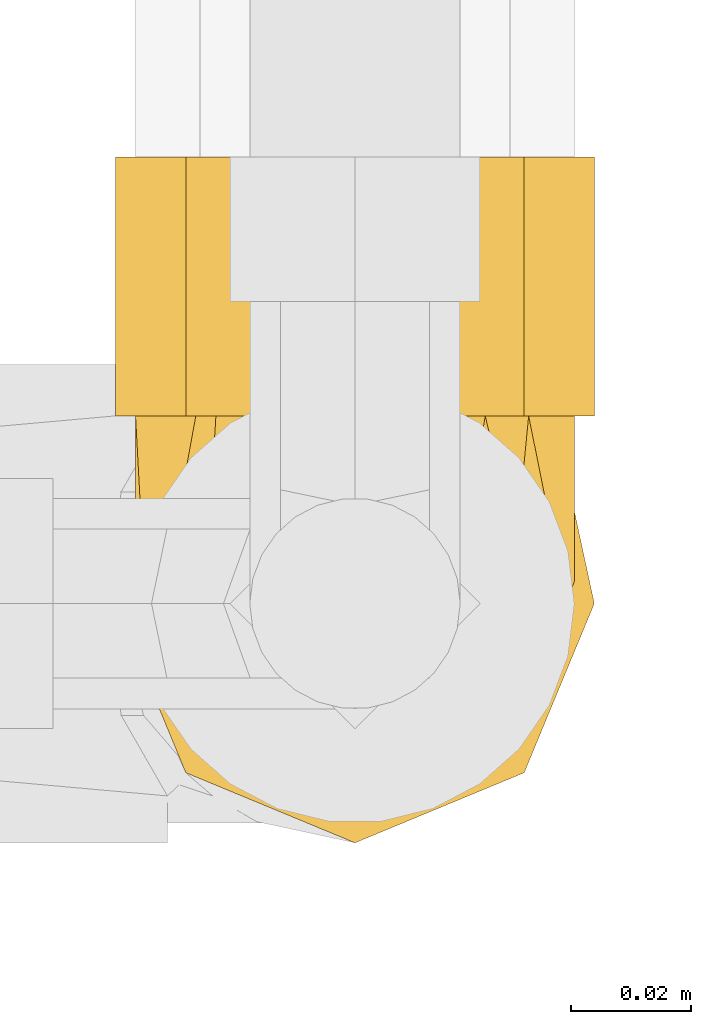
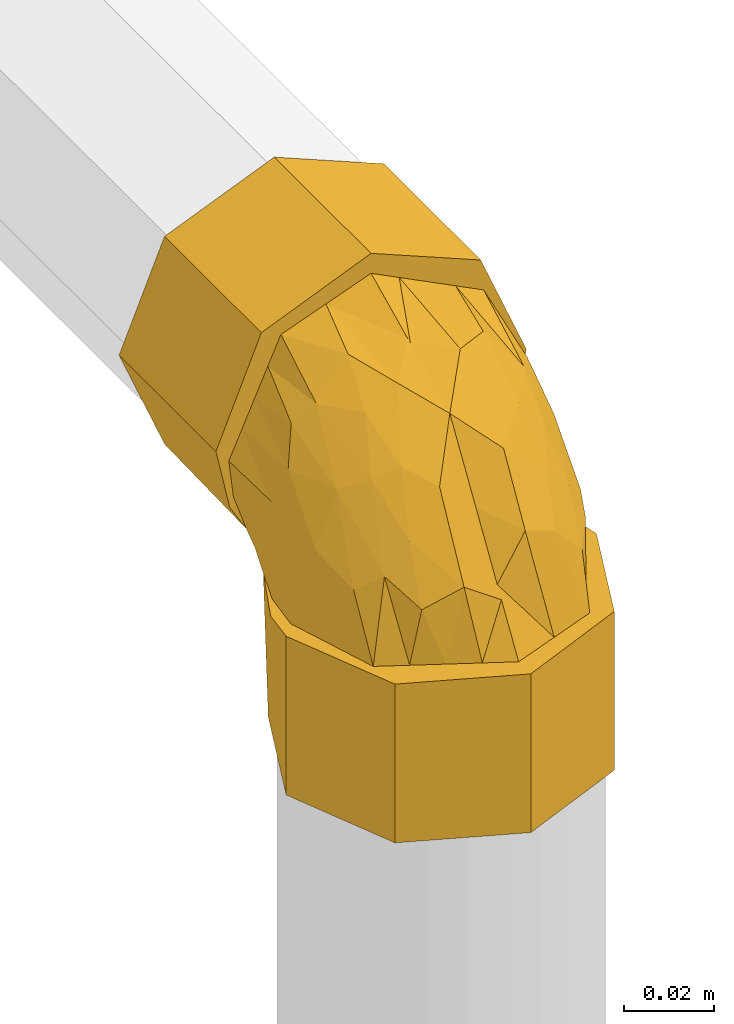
# One storey, part 271 of 652: 1 covering.
"""IFC2X3 building model written with IfcOpenShell, lengths in millimetres."""

from ifc_helpers import new_model, entity, si_unit, converted_unit, direction, frame, origin, place, context, subcontext, project, spatial, faceted_brep, material, type_object, element, save


model = new_model("IFC2X3")

# Units and contexts
model_context = context("Model", 3, precision=0.01, world=frame((0.0, 0.0, 308426.39999999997)), true_north=direction((6.123233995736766e-17, 1.0)))
plan_context = context("Plan", 3, precision=0.01, world=frame((0.0, 0.0, 308426.39999999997)), true_north=direction((6.123233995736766e-17, 1.0)))
body_context = subcontext(model_context, "Body", "Model", "MODEL_VIEW")
ifc_project = project(units=[si_unit("LENGTHUNIT", "METRE", prefix="MILLI"), si_unit("AREAUNIT", "SQUARE_METRE"), si_unit("VOLUMEUNIT", "CUBIC_METRE"), converted_unit("PLANEANGLEUNIT", "DEGREE", entity("IfcPlaneAngleMeasure", 0.017453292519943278), si_unit("PLANEANGLEUNIT", "RADIAN"), dimensions=[0, 0, 0, 0, 0, 0, 0])], contexts=[model_context, plan_context])

# Site, building, storey
site_placement = place(None, origin())
site = spatial("IfcSite", under=ifc_project, at=site_placement, Name="Default", CompositionType="ELEMENT")
building_placement = place(site_placement, origin())
building = spatial("IfcBuilding", under=site, at=building_placement, CompositionType="ELEMENT")
storey_placement = place(building_placement, frame((0.0, 0.0, 1730.6999999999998)))
storey = spatial("IfcBuildingStorey", under=building, at=storey_placement, Name="EG_Produktion_FFB", CompositionType="ELEMENT", Elevation=1730.6999999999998)

# Covering
ifc_material = material(Name="Dämmung - Armaflex-Schlauch")
covering_type = type_object("IfcCoveringType", Name="Rohrdämmung außen:Armaflex-Schlauch", PredefinedType="INSULATION")
covering_placement = place(storey_placement, frame((79380.69747546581, 78737.33483172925, 4925.750000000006)))
element("IfcCovering", 1, at=covering_placement, inside=storey, type_object=covering_type, material=ifc_material, Name="Rohrdämmung außen:Armaflex-Schlauch", ObjectType="Rohrdämmung außen:Armaflex-Schlauch", PredefinedType="INSULATION", context=body_context, shape_type="Brep", body=[
    faceted_brep([(76.69198954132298, 55.37038782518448, 43.05000000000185), (77.16404151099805, 51.35297020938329, 43.05000000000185), (77.89527223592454, 45.12980118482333, 43.05000000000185), (74.4532351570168, 37.49419488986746, 43.05000000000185), (71.01119807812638, 29.858588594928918, 43.05000000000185), (67.77734838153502, 22.684812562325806, 43.05000000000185), (64.5434986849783, 15.511036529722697, 43.05000000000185), (52.969385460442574, 11.256907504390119, 43.05000000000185), (41.395272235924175, 7.0027784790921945, 43.05000000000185), (34.17684368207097, 10.652022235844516, 43.05000000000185), (26.95841512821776, 14.301265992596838, 43.05000000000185), (19.739986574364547, 17.95050974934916, 43.05000000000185), (12.521558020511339, 21.599753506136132, 43.05000000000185), (10.13128984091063, 28.974657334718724, 43.05000000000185), (7.513281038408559, 37.052229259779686, 43.05000000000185), (4.895272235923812, 45.12980118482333, 43.05000000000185), (5.6265029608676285, 51.35297020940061, 43.05000000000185), (6.09855493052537, 55.37038782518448, 43.05000000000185), (7.751839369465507, 60.22206990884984, 43.05000000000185), (9.405123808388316, 65.0737519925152, 43.05000000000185), (5.948218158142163, 57.433378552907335, 43.05000000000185), (2.4913125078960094, 49.7930051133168, 43.05000000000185), (1.5952722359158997, 41.39527223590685, 43.05000000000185), (4.909068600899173, 33.39506010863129, 43.05000000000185), (7.4238472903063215, 27.323847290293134, 43.05000000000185), (10.338134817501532, 20.288134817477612, 43.05000000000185), (13.252422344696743, 13.252422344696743, 43.05000000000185), (20.28813481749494, 10.338134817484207, 43.05000000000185), (27.32384729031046, 7.423847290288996, 43.05000000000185), (34.35955976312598, 4.509559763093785, 43.05000000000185), (41.395272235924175, 1.5952722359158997, 43.05000000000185), (49.39548442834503, 4.9090686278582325, 43.05000000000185), (55.466697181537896, 7.423847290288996, 43.05000000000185), (62.50240965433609, 10.338134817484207, 43.05000000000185), (69.53812212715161, 13.252422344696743, 43.05000000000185), (72.45240965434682, 20.288134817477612, 43.05000000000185), (75.36669718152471, 27.323847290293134, 43.05000000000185), (77.88147639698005, 33.395061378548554, 43.05000000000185), (81.19527223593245, 41.39527223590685, 43.05000000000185), (79.425746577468, 49.5986800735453, 43.05000000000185), (77.65622091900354, 57.802087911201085, 43.05000000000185), (73.38542066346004, 65.0737519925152, 43.05000000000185), (75.03870510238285, 60.22206990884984, 43.05000000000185), (4.509559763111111, 48.43098470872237, 0.0), (7.4238472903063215, 55.466697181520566, 0.0), (10.338134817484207, 62.50240965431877, 0.0), (13.252422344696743, 69.53812212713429, 0.0), (20.28813481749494, 72.4524096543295, 0.0), (27.32384729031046, 75.36669718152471, 0.0), (33.395059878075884, 77.88147577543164, 0.0), (41.395272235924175, 81.19527223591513, 0.0), (49.39548296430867, 77.88147645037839, 0.0), (55.466697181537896, 75.36669718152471, 0.0), (62.502409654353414, 72.4524096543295, 0.0), (69.53812212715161, 69.53812212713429, 0.0), (72.45240965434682, 62.50240965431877, 0.0), (75.36669718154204, 55.466697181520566, 0.0), (78.28098470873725, 48.43098470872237, 0.0), (81.19527223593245, 41.39527223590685, 0.0), (78.28098470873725, 34.35955976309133, 0.0), (75.36669718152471, 27.323847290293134, 0.0), (72.45240965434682, 20.288134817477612, 0.0), (69.53812212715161, 13.252422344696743, 0.0), (62.502409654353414, 10.338134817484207, 0.0), (55.466697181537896, 7.42384729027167, 0.0), (48.43098470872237, 4.509559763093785, 0.0), (41.395272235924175, 1.5952722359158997, 0.0), (34.359559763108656, 4.509559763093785, 0.0), (27.32384729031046, 7.423847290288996, 0.0), (20.28813481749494, 10.338134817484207, 0.0), (13.252422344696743, 13.252422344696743, 0.0), (8.222865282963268, 25.394847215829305, 0.0), (4.90906875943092, 33.39505972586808, 0.0), (1.5952722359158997, 41.39527223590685, 0.0), (16.10717069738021, 70.83137669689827, 39.20119599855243), (41.395272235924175, 81.19527223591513, 32.96795940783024), (32.10224491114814, 78.89213681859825, 34.160175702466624), (22.809217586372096, 76.58900140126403, 35.352391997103), (27.455731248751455, 77.7405691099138, 34.756283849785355), (66.68337377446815, 70.83137669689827, 39.20119599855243), (50.688299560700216, 78.89213681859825, 34.160175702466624), (59.98132688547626, 76.58900140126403, 35.352391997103), (45.709172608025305, 80.12613767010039, 33.52139610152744), (81.19527223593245, 72.59527223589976, 74.2500000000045), (77.88147589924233, 72.59527223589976, 82.25021205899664), (75.36669718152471, 72.59527223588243, 88.32142494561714), (72.45240965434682, 72.59527223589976, 95.35713741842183), (69.53812212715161, 72.59527223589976, 102.39284989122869), (62.50240965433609, 72.59527223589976, 105.30713741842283), (55.466697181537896, 72.59527223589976, 108.22142494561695), (49.39548303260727, 72.59527223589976, 110.7362041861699), (41.395272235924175, 72.59527223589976, 114.05000000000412), (33.39506041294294, 72.59527223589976, 110.73620376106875), (27.32384729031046, 72.59527223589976, 108.22142494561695), (20.28813481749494, 72.59527223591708, 105.30713741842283), (13.252422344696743, 72.59527223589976, 102.39284989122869), (10.338134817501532, 72.59527223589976, 95.35713741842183), (7.4238472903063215, 72.59527223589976, 88.32142494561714), (4.509559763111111, 72.59527223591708, 81.28571247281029), (1.5952722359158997, 72.59527223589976, 74.2500000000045), (3.3647978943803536, 72.59527223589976, 66.04659216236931), (5.134323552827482, 72.59527223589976, 57.843184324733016), (9.405123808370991, 72.59527223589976, 50.57152024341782), (7.751839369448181, 72.59527223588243, 55.423202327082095), (6.09855493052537, 72.59527223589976, 60.274884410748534), (5.626503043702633, 72.59527223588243, 64.29230132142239), (5.260887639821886, 72.59527223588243, 67.40388618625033), (4.895272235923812, 72.59527223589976, 70.51547105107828), (8.235711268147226, 72.59527223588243, 77.9222713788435), (11.576150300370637, 72.59527223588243, 85.3290717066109), (14.91658933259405, 72.59527223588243, 92.73587203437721), (18.25702836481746, 72.59527223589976, 100.14267236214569), (24.04158933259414, 72.59527223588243, 102.26762771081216), (29.82615030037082, 72.59527223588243, 104.39258305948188), (41.395272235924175, 72.59527223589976, 108.64249375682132), (48.61586780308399, 72.59527223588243, 104.99034516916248), (55.83646337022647, 72.59527223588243, 101.33819658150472), (63.05705893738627, 72.59527223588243, 97.68604799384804), (70.27765450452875, 72.59527223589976, 94.03389940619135), (72.18205893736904, 72.59527223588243, 88.154292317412), (74.08646337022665, 72.59527223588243, 82.27468522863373), (77.89527223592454, 72.59527223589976, 70.51547105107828), (77.5296568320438, 72.59527223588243, 67.40388618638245), (77.16404142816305, 72.59527223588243, 64.29230132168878), (76.69198954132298, 72.59527223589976, 60.274884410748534), (75.03870510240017, 72.59527223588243, 55.423202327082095), (73.38542066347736, 72.59527223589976, 50.57152024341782), (76.84232631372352, 72.59527223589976, 58.21189368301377), (80.29923196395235, 72.59527223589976, 65.85226712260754), (13.252422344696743, 115.64527223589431, 102.39284989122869), (25.394847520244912, 115.64527223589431, 107.42240707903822), (33.39505987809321, 115.64527223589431, 110.73620353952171), (41.395272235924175, 115.64527223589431, 114.05000000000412), (48.4309847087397, 115.64527223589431, 111.13571247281), (55.466697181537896, 115.64527223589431, 108.22142494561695), (62.502409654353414, 115.64527223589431, 105.30713741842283), (69.53812212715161, 115.64527223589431, 102.39284989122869), (72.45240965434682, 115.64527223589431, 95.35713741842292), (75.36669718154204, 115.64527223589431, 88.32142494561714), (78.28098470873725, 115.64527223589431, 81.28571247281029), (81.19527223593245, 115.64527223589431, 74.25000000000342), (78.28098470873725, 115.64527223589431, 67.21428752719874), (75.36669718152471, 115.64527223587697, 60.17857505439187), (72.45240965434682, 115.64527223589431, 53.142862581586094), (69.53812212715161, 115.64527223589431, 46.10715010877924), (62.50240965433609, 115.64527223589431, 43.19286258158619), (55.466697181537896, 115.64527223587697, 40.278575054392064), (49.395484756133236, 115.64527223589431, 37.76379652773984), (41.395272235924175, 115.64527223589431, 34.45000000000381), (33.39506148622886, 115.64527223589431, 37.76379579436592), (27.32384729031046, 115.64527223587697, 40.278575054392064), (20.28813481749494, 115.64527223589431, 43.19286258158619), (13.252422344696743, 115.64527223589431, 46.10715010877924), (10.338134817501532, 115.64527223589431, 53.142862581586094), (7.4238472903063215, 115.64527223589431, 60.17857505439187), (4.90906875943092, 115.64527223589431, 66.24978748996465), (1.5952722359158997, 115.64527223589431, 74.2500000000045), (4.509559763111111, 115.64527223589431, 81.28571247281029), (7.4238472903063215, 115.64527223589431, 88.32142494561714), (10.338134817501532, 115.64527223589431, 95.35713741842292), (41.395272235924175, 82.67731282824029, 34.45000000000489), (32.10224491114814, 81.48509653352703, 36.75313541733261), (22.809217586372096, 80.29288023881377, 39.05627083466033), (32.76747165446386, 81.57043946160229, 36.58826909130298), (16.10717069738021, 76.4440762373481, 44.81389553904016), (66.68337377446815, 76.4440762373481, 44.81389553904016), (50.688299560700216, 81.48509653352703, 36.75313541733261), (59.98132688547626, 80.29288023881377, 39.05627083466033), (50.023072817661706, 81.57043946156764, 36.588269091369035), (45.70917252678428, 82.12387614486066, 35.51913454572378), (12.137636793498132, 57.40447907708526, 87.4400129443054), (11.87717849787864, 29.22139118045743, 59.34860992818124), (8.382450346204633, 40.05276523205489, 64.90306423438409), (4.895272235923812, 51.722743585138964, 54.5495321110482), (5.713016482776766, 44.468716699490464, 57.658263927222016), (5.8222745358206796, 55.20607979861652, 69.69354406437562), (14.29604474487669, 40.811918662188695, 78.76668687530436), (17.30233981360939, 24.889275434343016, 63.73576362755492), (41.395272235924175, 37.5856247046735, 91.87217906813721), (33.32676084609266, 46.90627199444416, 97.28950443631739), (32.96395689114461, 27.55734768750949, 81.02225513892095), (41.395272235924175, 14.648490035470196, 55.255544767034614), (31.964252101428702, 14.916371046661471, 61.78394282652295), (20.549133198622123, 36.28103805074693, 82.06890696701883), (4.895272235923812, 70.20187735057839, 68.68470117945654), (4.895272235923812, 67.80848246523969, 66.85393130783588), (4.895272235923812, 63.02169269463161, 63.192391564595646), (4.895272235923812, 62.159007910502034, 62.5325015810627), (4.895272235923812, 57.37221813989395, 58.870961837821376), (17.212038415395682, 55.05614675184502, 92.43998191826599), (23.53050384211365, 24.586625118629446, 71.36422849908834), (22.51394610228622, 17.34247051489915, 57.4938977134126), (24.549624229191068, 45.92174075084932, 92.84978030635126), (26.889985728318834, 33.99708214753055, 84.77174820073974), (41.395272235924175, 55.0904484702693, 100.25733641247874), (41.395272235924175, 56.27567245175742, 100.82508217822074), (41.395272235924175, 22.294201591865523, 67.46108953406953), (41.395272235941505, 26.01086359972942, 73.39433514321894), (41.395272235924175, 29.939913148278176, 79.66663430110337), (26.990425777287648, 57.87848940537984, 100.69929050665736), (8.923083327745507, 53.175198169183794, 78.77811020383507), (41.395272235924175, 16.506821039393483, 58.22216757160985), (4.895272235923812, 48.15377857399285, 48.32447730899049), (5.551365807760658, 55.97900107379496, 48.69317164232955), (6.7794642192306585, 61.26475606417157, 47.9644236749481), (41.395272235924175, 81.90790933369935, 33.73736290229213), (6.67492176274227, 64.05926779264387, 51.5860049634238), (11.256462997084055, 70.657051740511, 44.98822020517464), (6.779464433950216, 67.68084924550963, 54.380515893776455), (5.565993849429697, 67.04460292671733, 59.6382005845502), (77.23917866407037, 55.97900107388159, 48.693171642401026), (77.89527223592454, 48.153778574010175, 48.32447730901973), (71.53408126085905, 70.6570520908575, 44.988220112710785), (76.11562236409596, 64.05926854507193, 51.58600421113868), (77.89527223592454, 57.372218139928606, 58.870961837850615), (76.0110802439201, 61.2647560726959, 47.96442364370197), (76.01108002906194, 67.68084927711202, 54.38051588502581), (77.22455062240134, 67.04460292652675, 59.638200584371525), (77.89527223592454, 67.80848246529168, 66.8539313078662), (77.89527223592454, 70.20187735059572, 68.6847011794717), (77.89527223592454, 63.02169269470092, 63.192391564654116), (77.89527223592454, 62.159007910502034, 62.5325015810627), (77.89527223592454, 51.722743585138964, 54.549532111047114), (74.88571901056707, 37.59649450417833, 59.71456886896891), (71.63741334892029, 29.779001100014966, 58.23049891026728), (75.88132954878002, 58.35673429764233, 76.57285852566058), (50.93896013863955, 30.25008837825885, 83.50662271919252), (66.01083955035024, 38.50982378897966, 80.03320078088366), (73.66837271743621, 47.230699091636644, 74.59033436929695), (68.18270760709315, 50.9601072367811, 87.07939433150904), (76.89386599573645, 50.778566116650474, 66.22403301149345), (76.90226649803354, 42.44960378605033, 56.06914431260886), (67.43892667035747, 29.826692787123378, 67.93837358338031), (60.25020692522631, 39.68498593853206, 86.81855141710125), (51.156391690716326, 49.866350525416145, 98.52707757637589), (60.07117178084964, 55.105408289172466, 96.99211743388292), (73.16342274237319, 58.24750794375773, 83.51012836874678), (58.19577940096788, 19.80413545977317, 64.90812724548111), (61.698892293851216, 29.15087133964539, 74.90326070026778), (66.04016185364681, 21.439025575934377, 56.08355083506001), (49.67803307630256, 18.424421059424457, 68.75694835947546)], [[[0, 1, 2, 3, 4, 5, 6, 7, 8, 9, 10, 11, 12, 13, 14, 15, 16, 17, 18, 19, 20, 21, 22, 23, 24, 25, 26, 27, 28, 29, 30, 31, 32, 33, 34, 35, 36, 37, 38, 39, 40, 41, 42]], [[43, 44, 45, 46, 47, 48, 49, 50, 51, 52, 53, 54, 55, 56, 57, 58, 59, 60, 61, 62, 63, 64, 65, 66, 67, 68, 69, 70, 71, 72, 73]], [[47, 46, 74]], [[75, 50, 49]], [[76, 75, 49]], [[48, 77, 78, 76]], [[47, 74, 77]], [[44, 20, 45]], [[43, 21, 44]], [[46, 19, 74]], [[77, 48, 47]], [[44, 21, 20]], [[43, 22, 21]], [[48, 76, 49]], [[43, 73, 22]], [[45, 20, 19]], [[19, 46, 45]], [[23, 22, 73, 72, 71, 70, 26, 25, 24]], [[26, 70, 69, 68, 67, 66, 30, 29, 28, 27]], [[38, 37, 36, 35, 34, 62, 61, 60, 59, 58]], [[30, 66, 65, 64, 63, 62, 34, 33, 32, 31]], [[56, 40, 39]], [[53, 79, 54]], [[39, 57, 56]], [[41, 55, 54]], [[40, 55, 41]], [[80, 52, 51]], [[52, 80, 81]], [[58, 57, 38]], [[51, 75, 82, 80]], [[38, 57, 39]], [[79, 53, 81]], [[55, 40, 56]], [[51, 50, 75]], [[53, 52, 81]], [[79, 41, 54]], [[83, 84, 85, 86, 87, 88, 89, 90, 91, 92, 93, 94, 95, 96, 97, 98, 99, 100, 101, 102, 103, 104, 105, 106, 107, 108, 109, 110, 111, 112, 113, 114, 115, 116, 117, 118, 119, 120, 121, 122, 123, 124, 125, 126, 127, 128]], [[129, 130, 131, 132, 133, 134, 135, 136, 137, 138, 139, 140, 141, 142, 143, 144, 145, 146, 147, 148, 149, 150, 151, 152, 153, 154, 155, 156, 157, 158, 159]], [[132, 131, 130, 129, 95, 94, 93, 92, 91]], [[95, 129, 159, 158, 157, 156, 99, 98, 97, 96]], [[156, 155, 154, 100]], [[101, 153, 102]], [[99, 156, 100]], [[101, 100, 154]], [[149, 148, 160]], [[102, 153, 152]], [[150, 161, 162]], [[161, 150, 149]], [[149, 160, 163, 161]], [[151, 164, 152]], [[164, 151, 162]], [[153, 101, 154]], [[151, 150, 162]], [[164, 102, 152]], [[145, 144, 165]], [[146, 166, 147]], [[166, 146, 167]], [[160, 148, 147]], [[145, 165, 167]], [[142, 127, 143]], [[141, 128, 142]], [[144, 126, 165]], [[167, 146, 145]], [[142, 128, 127]], [[141, 83, 128]], [[147, 166, 168, 169, 160]], [[141, 140, 83]], [[143, 127, 126]], [[126, 144, 143]], [[91, 90, 89, 88, 87, 136, 135, 134, 133, 132]], [[138, 137, 136, 87, 86, 85, 84, 83, 140, 139]], [[109, 170, 110]], [[13, 171, 172]], [[14, 13, 172]], [[173, 174, 175]], [[176, 171, 177]], [[15, 14, 174]], [[178, 179, 180]], [[9, 181, 182]], [[172, 175, 174]], [[13, 12, 171]], [[12, 11, 177]], [[176, 177, 183]], [[175, 107, 184, 185, 186, 187, 188, 173]], [[189, 170, 176]], [[176, 172, 171]], [[190, 191, 182]], [[11, 10, 191]], [[177, 11, 191]], [[170, 189, 110]], [[192, 183, 193]], [[179, 178, 194, 195]], [[182, 191, 10]], [[190, 182, 180]], [[177, 191, 190]], [[182, 10, 9]], [[182, 196, 180]], [[177, 190, 183]], [[177, 171, 12]], [[180, 196, 197, 198, 178]], [[113, 179, 195]], [[112, 111, 199, 113]], [[199, 111, 189]], [[195, 114, 113]], [[179, 192, 193]], [[200, 175, 172]], [[200, 108, 175]], [[172, 176, 200]], [[189, 111, 110]], [[200, 170, 109]], [[183, 189, 176]], [[108, 200, 109]], [[189, 192, 199]], [[108, 107, 175]], [[176, 170, 200]], [[193, 190, 180]], [[189, 183, 192]], [[190, 193, 183]], [[179, 193, 180]], [[181, 9, 8]], [[182, 181, 201, 196]], [[192, 179, 199]], [[179, 113, 199]], [[174, 173, 202, 15]], [[172, 174, 14]], [[173, 203, 202]], [[188, 204, 203]], [[17, 203, 18]], [[202, 17, 16, 15]], [[205, 76, 163]], [[74, 164, 162, 77]], [[163, 76, 78, 77, 162, 161]], [[206, 102, 207]], [[207, 164, 74]], [[184, 107, 106, 105, 104, 185]], [[206, 208, 102]], [[186, 185, 209, 188, 187]], [[205, 75, 76]], [[163, 160, 205]], [[206, 207, 19]], [[164, 207, 102]], [[19, 18, 204]], [[19, 207, 74]], [[202, 203, 17]], [[204, 206, 19]], [[203, 173, 188]], [[18, 203, 204]], [[102, 208, 103]], [[103, 209, 104]], [[208, 206, 188]], [[209, 103, 208]], [[209, 185, 104]], [[188, 209, 208]], [[204, 188, 206]], [[205, 160, 169]], [[210, 211, 0]], [[169, 168, 166, 167, 81, 80, 82]], [[41, 212, 213]], [[1, 0, 211, 2]], [[213, 214, 215]], [[205, 169, 82]], [[79, 165, 212]], [[126, 125, 216]], [[213, 212, 126]], [[205, 82, 75]], [[167, 165, 79, 81]], [[217, 124, 218]], [[210, 215, 214]], [[122, 121, 219, 218, 124, 123]], [[41, 79, 212]], [[212, 165, 126]], [[215, 41, 213]], [[125, 124, 217]], [[126, 216, 213]], [[125, 217, 216]], [[217, 218, 220, 221, 214]], [[215, 42, 41]], [[0, 42, 210]], [[211, 210, 222]], [[214, 213, 216]], [[210, 42, 215]], [[216, 217, 214]], [[210, 214, 222]], [[4, 223, 224]], [[121, 120, 225]], [[226, 178, 198, 197]], [[227, 228, 229]], [[230, 228, 223]], [[231, 222, 230]], [[224, 228, 232]], [[233, 234, 226]], [[3, 231, 223]], [[235, 234, 233]], [[236, 225, 120]], [[231, 2, 211, 222]], [[226, 237, 238]], [[4, 3, 223]], [[225, 221, 220, 218, 219, 121]], [[239, 224, 232]], [[6, 237, 7]], [[237, 6, 239]], [[240, 201, 7]], [[230, 225, 228]], [[226, 240, 237]], [[236, 228, 225]], [[229, 117, 235]], [[194, 234, 115]], [[226, 234, 178]], [[115, 114, 195, 194]], [[237, 239, 238]], [[240, 226, 197]], [[228, 224, 223]], [[224, 239, 5]], [[5, 239, 6]], [[5, 4, 224]], [[239, 232, 238]], [[7, 201, 181, 8]], [[7, 237, 240]], [[240, 197, 196, 201]], [[229, 118, 117]], [[194, 178, 234]], [[233, 238, 227]], [[235, 117, 116]], [[234, 235, 116]], [[229, 235, 233]], [[231, 3, 2]], [[230, 223, 231]], [[230, 222, 214, 221]], [[225, 230, 221]], [[119, 118, 236, 120]], [[236, 118, 229]], [[229, 228, 236]], [[234, 116, 115]], [[227, 238, 232]], [[226, 238, 233]], [[228, 227, 232]], [[233, 227, 229]]]),
])

save(model, "model.ifc")
